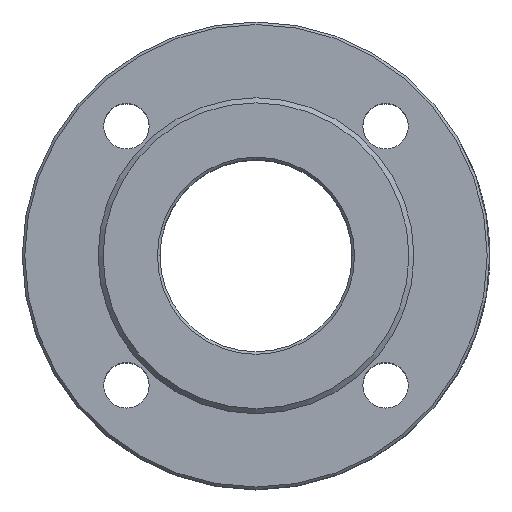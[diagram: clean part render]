
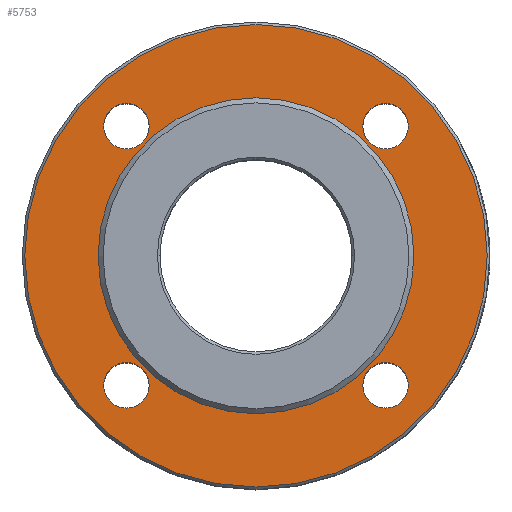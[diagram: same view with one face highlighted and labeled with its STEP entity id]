
A CAD part, top view. The second image highlights one B-rep face of the part: STEP entity #5753.
In plain terms, the highlighted planar face has unit normal (0, 0, 1).
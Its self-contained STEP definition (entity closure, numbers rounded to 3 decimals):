
#230=FACE_BOUND('',#1119,.T.);
#231=FACE_BOUND('',#1120,.T.);
#232=FACE_BOUND('',#1121,.T.);
#233=FACE_BOUND('',#1122,.T.);
#234=FACE_BOUND('',#1123,.T.);
#465=PLANE('',#6248);
#747=FACE_OUTER_BOUND('',#1118,.T.);
#1118=EDGE_LOOP('',(#4885));
#1119=EDGE_LOOP('',(#4886));
#1120=EDGE_LOOP('',(#4887));
#1121=EDGE_LOOP('',(#4888));
#1122=EDGE_LOOP('',(#4889));
#1123=EDGE_LOOP('',(#4890));
#1590=CIRCLE('',#6247,91.5);
#1591=CIRCLE('',#6249,9.);
#1592=CIRCLE('',#6250,9.);
#1593=CIRCLE('',#6251,9.);
#1594=CIRCLE('',#6252,62.5);
#1595=CIRCLE('',#6253,9.);
#2725=VERTEX_POINT('',#12227);
#2726=VERTEX_POINT('',#12231);
#2727=VERTEX_POINT('',#12233);
#2728=VERTEX_POINT('',#12235);
#2729=VERTEX_POINT('',#12237);
#2730=VERTEX_POINT('',#12239);
#3457=EDGE_CURVE('',#2725,#2725,#1590,.T.);
#3458=EDGE_CURVE('',#2726,#2726,#1591,.T.);
#3459=EDGE_CURVE('',#2727,#2727,#1592,.T.);
#3460=EDGE_CURVE('',#2728,#2728,#1593,.T.);
#3461=EDGE_CURVE('',#2729,#2729,#1594,.T.);
#3462=EDGE_CURVE('',#2730,#2730,#1595,.T.);
#4885=ORIENTED_EDGE('',*,*,#3457,.T.);
#4886=ORIENTED_EDGE('',*,*,#3458,.T.);
#4887=ORIENTED_EDGE('',*,*,#3459,.T.);
#4888=ORIENTED_EDGE('',*,*,#3460,.T.);
#4889=ORIENTED_EDGE('',*,*,#3461,.T.);
#4890=ORIENTED_EDGE('',*,*,#3462,.T.);
#5753=ADVANCED_FACE('',(#747,#230,#231,#232,#233,#234),#465,.F.);
#6247=AXIS2_PLACEMENT_3D('',#12229,#7507,#7508);
#6248=AXIS2_PLACEMENT_3D('',#12230,#7509,#7510);
#6249=AXIS2_PLACEMENT_3D('',#12232,#7511,#7512);
#6250=AXIS2_PLACEMENT_3D('',#12234,#7513,#7514);
#6251=AXIS2_PLACEMENT_3D('',#12236,#7515,#7516);
#6252=AXIS2_PLACEMENT_3D('',#12238,#7517,#7518);
#6253=AXIS2_PLACEMENT_3D('',#12240,#7519,#7520);
#7507=DIRECTION('center_axis',(0.,0.,1.));
#7508=DIRECTION('ref_axis',(0.,1.,0.));
#7509=DIRECTION('center_axis',(0.,0.,-1.));
#7510=DIRECTION('ref_axis',(-1.,0.,0.));
#7511=DIRECTION('center_axis',(0.,0.,-1.));
#7512=DIRECTION('ref_axis',(-1.,0.,0.));
#7513=DIRECTION('center_axis',(0.,0.,-1.));
#7514=DIRECTION('ref_axis',(-1.,0.,0.));
#7515=DIRECTION('center_axis',(0.,0.,-1.));
#7516=DIRECTION('ref_axis',(-1.,0.,0.));
#7517=DIRECTION('center_axis',(0.,0.,-1.));
#7518=DIRECTION('ref_axis',(1.,0.,0.));
#7519=DIRECTION('center_axis',(0.,0.,-1.));
#7520=DIRECTION('ref_axis',(-1.,0.,0.));
#12227=CARTESIAN_POINT('',(0.,-91.5,53.));
#12229=CARTESIAN_POINT('Origin',(0.,0.,53.));
#12230=CARTESIAN_POINT('Origin',(0.,0.,53.));
#12231=CARTESIAN_POINT('',(-42.265,-51.265,53.));
#12232=CARTESIAN_POINT('Origin',(-51.265,-51.265,53.));
#12233=CARTESIAN_POINT('',(60.265,-51.265,53.));
#12234=CARTESIAN_POINT('Origin',(51.265,-51.265,53.));
#12235=CARTESIAN_POINT('',(60.265,51.265,53.));
#12236=CARTESIAN_POINT('Origin',(51.265,51.265,53.));
#12237=CARTESIAN_POINT('',(-62.5,0.,53.));
#12238=CARTESIAN_POINT('Origin',(0.,0.,53.));
#12239=CARTESIAN_POINT('',(-42.265,51.265,53.));
#12240=CARTESIAN_POINT('Origin',(-51.265,51.265,53.));
